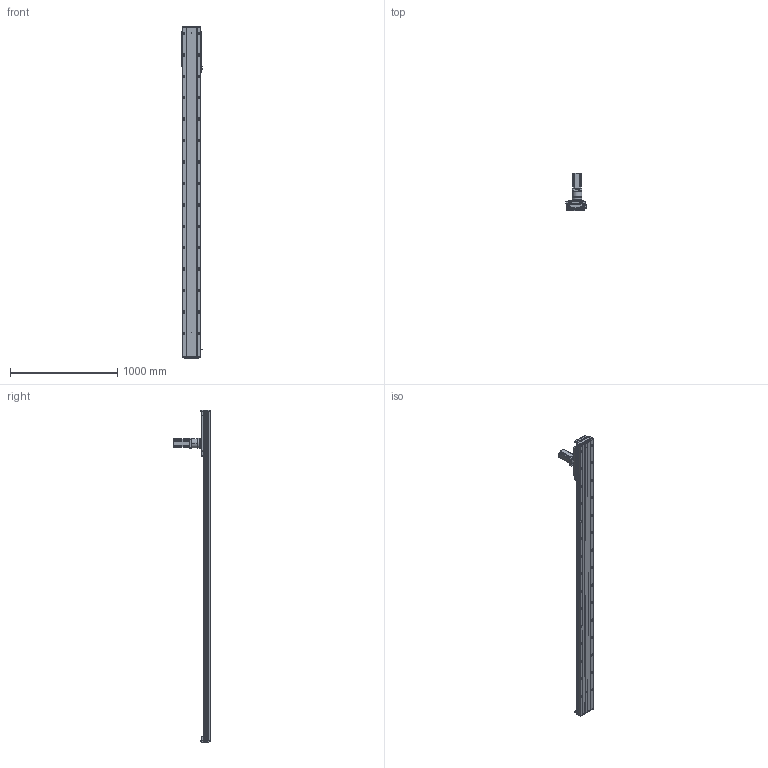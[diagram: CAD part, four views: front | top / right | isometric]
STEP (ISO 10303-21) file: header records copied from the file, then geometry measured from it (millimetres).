
FILE_DESCRIPTION (( 'STEP AP203' ), '1' );
FILE_NAME ('RY170-C-1000-UK.SLDASM_2600.step', '2021-03-03T00:47:47', ( '盈信电脑' ), ( '东莞市道滘镇水果街19号' ), 'SwSTEP 2.0', 'SolidWorks 2012', '' );
FILE_SCHEMA (( 'CONFIG_CONTROL_DESIGN' ));
Length unit declared in the file: millimetre
Products named in the file (13): 左旋斜齿齿轮_M2_22齿_内孔20; RY170-喘沭賑輸; RY170-C-1000-UK.SLDASM_2600; 怢湛750W萇儂ㄗ80遺ㄘ; TF080等撰; RY170-喘沭滅袉蝶輸; RY170-喘謫萇儂覃誹啣; RY170綴裔啣ㄗ蜊秶ㄘ; 覜茼ん672; RY170外置感应片(200共用）; 絳寢賑輸EGH20CA; RY170-1000齿条模组型材底座_2600; RY170-1000-喘沭耀郪絳寢EGH20CA_2600
Assembly tree (22 placements, depth 2):
  RY170-C-1000-UK.SLDASM_2600
    RY170-1000齿条模组型材底座_2600
    絳寢賑輸EGH20CA  x6
    RY170-1000-喘沭耀郪絳寢EGH20CA_2600  x2
    RY170綴裔啣ㄗ蜊秶ㄘ  x2
    覜茼ん672  x3
    RY170外置感应片(200共用）
    RY170-喘謫萇儂覃誹啣
    怢湛750W萇儂ㄗ80遺ㄘ
    RY170-喘沭滅袉蝶輸  x2
    TF080等撰
    左旋斜齿齿轮_M2_22齿_内孔20
    RY170-喘沭賑輸
Bounding box: 188.7 x 343.5 x 3100 mm (x, y, z)
Volume: 15922646.2 mm3; surface area: 4065299.6 mm2
Topology: 24 solids, 24 shells, 4672 faces, 13172 edges, 8409 vertices
Faces by surface type: plane 2212, cylinder 2028, cone 378, bspline 50, torus 4
Entity records: 106592 total; most frequent: CARTESIAN_POINT 25506, ORIENTED_EDGE 16978, DIRECTION 16412, EDGE_CURVE 8489, AXIS2_PLACEMENT_3D 6094, VERTEX_POINT 5519, VECTOR 4224, LINE 4224
